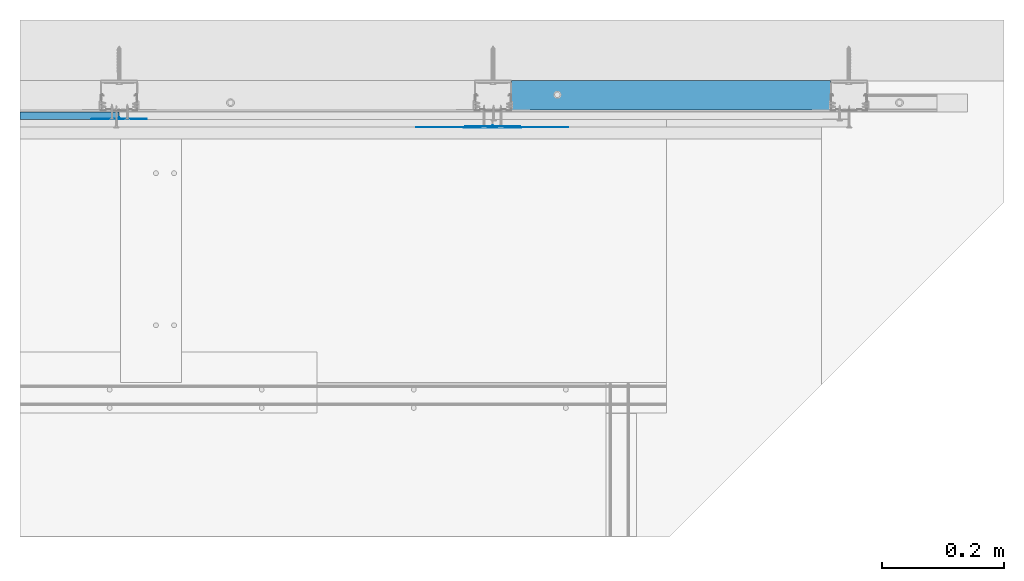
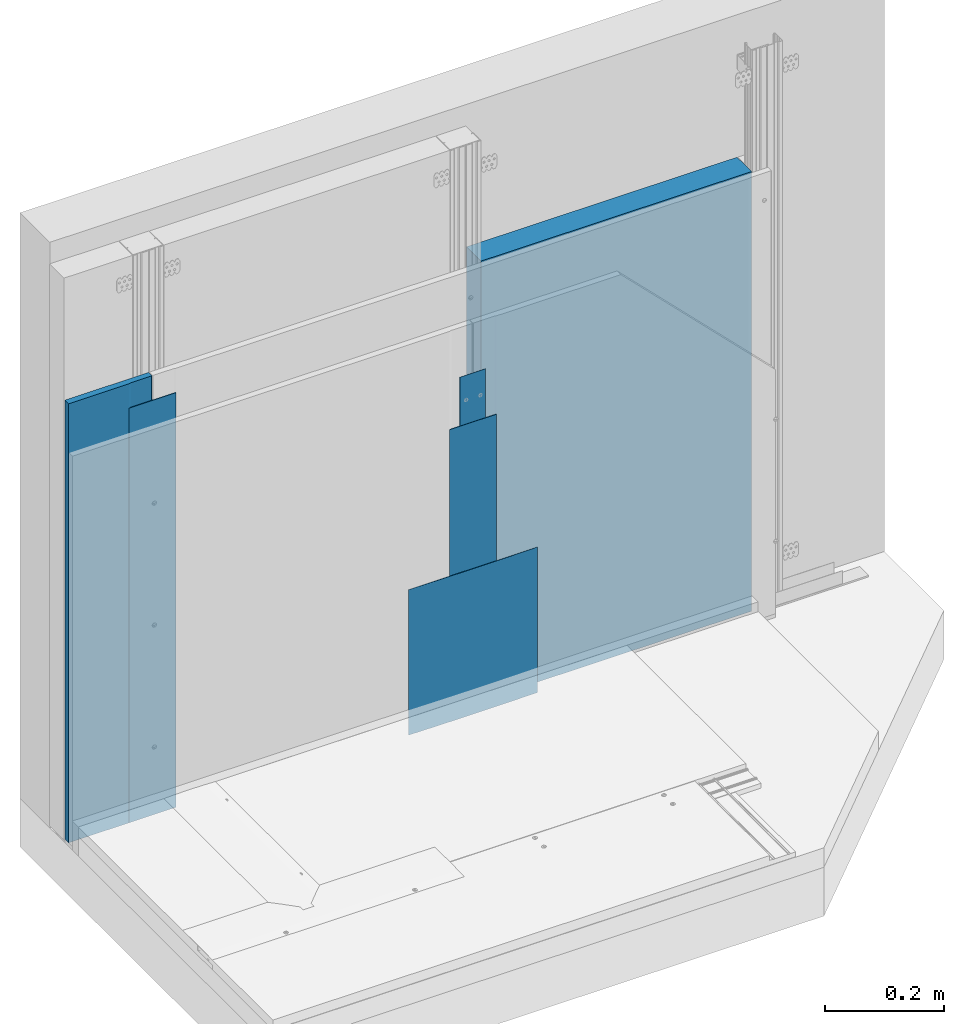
# One storey, part 17 of 47: 6 walls.
"""IFC2X3 building model written with IfcOpenShell, lengths in millimetres."""

from ifc_helpers import new_model, entity, si_unit, converted_unit, direction, frame, origin, origin_with_axes, place, context, project, spatial, faceted_brep, element, save


model = new_model("IFC2X3")

# Units and contexts
model_context = context("Model", 3, precision=1e-05, world=origin(), true_north=direction((0.0, 1.0, 0.0)))
ifc_project = project(units=[si_unit("LENGTHUNIT", "METRE", prefix="MILLI"), si_unit("AREAUNIT", "SQUARE_METRE"), si_unit("VOLUMEUNIT", "CUBIC_METRE"), converted_unit("PLANEANGLEUNIT", "DEGREE", entity("IfcPlaneAngleMeasure", 0.01745), si_unit("PLANEANGLEUNIT", "RADIAN"), dimensions=[0, 0, 0, 0, 0, 0, 0]), si_unit("SOLIDANGLEUNIT", "STERADIAN"), si_unit("MASSUNIT", "GRAM"), si_unit("TIMEUNIT", "SECOND"), si_unit("THERMODYNAMICTEMPERATUREUNIT", "DEGREE_CELSIUS"), si_unit("LUMINOUSINTENSITYUNIT", "LUMEN")], contexts=[model_context])

# Site, building, storey
site_placement = place(None, origin_with_axes())
site = spatial("IfcSite", under=ifc_project, at=site_placement, Name="Default Site", CompositionType="ELEMENT")
building_placement = place(site_placement, origin_with_axes())
building = spatial("IfcBuilding", under=site, at=building_placement, Name="Default Building", CompositionType="ELEMENT")
storey_placement = place(building_placement, origin_with_axes())
storey = spatial("IfcBuildingStorey", under=building, at=storey_placement, Name="Default Building Storey", CompositionType="ELEMENT", Elevation=0.0)

# Walls
wall_1_placement = place(storey_placement, frame((2165.047154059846, 5336.736799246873, 7.548421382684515), z_axis=(0.0, 0.0, 1.0), x_axis=(-1.0, 0.0, 0.0)))
element("IfcWall", 1, at=wall_1_placement, inside=storey, Name="Dedykowana masa szpachlowa Rigips - konstrukcyjna", context=model_context, shape_type="Brep", body=[
    faceted_brep([(-737.4838396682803, 3387.6695906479, 600.7999999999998), (-737.4592163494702, 3387.356721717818, 600.7999999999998), (-737.434593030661, 3387.6695906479, 600.7999999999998), (-737.3613293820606, 3387.974755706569, 600.7999999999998), (-737.2412293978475, 3388.264702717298, 600.7999999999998), (-737.07725033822, 3388.532292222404, 600.7999999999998), (-736.8734299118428, 3388.770935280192, 600.7999999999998), (-736.6347868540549, 3388.974755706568, 600.7999999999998), (-736.3671973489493, 3389.138734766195, 600.7999999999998), (-736.0772503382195, 3389.258834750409, 600.7999999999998), (-735.7720852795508, 3389.332098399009, 600.7999999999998), (-735.45921634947, 3389.356721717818, 600.7999999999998), (-692.4592163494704, 3389.356721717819, 600.7999999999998), (-691.4592163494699, 3390.556721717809, 600.7999999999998), (-782.4592163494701, 3390.556721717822, 600.7999999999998), (-782.4592163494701, 3389.356721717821, 600.7999999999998), (-739.4592163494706, 3389.356721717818, 600.7999999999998), (-739.1463474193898, 3389.332098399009, 600.7999999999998), (-738.8411823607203, 3389.258834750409, 600.7999999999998), (-738.5512353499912, 3389.138734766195, 600.7999999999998), (-738.2836458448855, 3388.974755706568, 600.7999999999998), (-738.0450027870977, 3388.770935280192, 600.7999999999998), (-737.8411823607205, 3388.532292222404, 600.7999999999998), (-737.6772033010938, 3388.264702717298, 600.7999999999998), (-737.55710331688, 3387.974755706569, 600.7999999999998), (-691.4592163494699, 3390.556721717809, 2.449996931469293), (-692.4592163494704, 3389.356721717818, 2.449996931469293), (-735.45921634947, 3389.356721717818, 2.449996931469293), (-735.7720852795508, 3389.332098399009, 2.449996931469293), (-736.0772503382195, 3389.258834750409, 2.449996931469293), (-736.3671973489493, 3389.138734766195, 2.449996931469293), (-736.6347868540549, 3388.974755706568, 2.449996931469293), (-736.8734299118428, 3388.770935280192, 2.449996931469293), (-737.07725033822, 3388.532292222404, 2.449996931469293), (-737.2412293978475, 3388.264702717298, 2.449996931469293), (-737.3613293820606, 3387.974755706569, 2.449996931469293), (-737.434593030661, 3387.6695906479, 2.449996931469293), (-737.4592163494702, 3387.356721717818, 2.449996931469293), (-737.4838396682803, 3387.6695906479, 2.449996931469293), (-737.55710331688, 3387.974755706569, 2.449996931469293), (-737.6772033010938, 3388.264702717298, 2.449996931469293), (-737.8411823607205, 3388.532292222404, 2.449996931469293), (-738.0450027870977, 3388.770935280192, 2.449996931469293), (-738.2836458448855, 3388.974755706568, 2.449996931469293), (-738.5512353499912, 3389.138734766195, 2.449996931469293), (-738.8411823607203, 3389.258834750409, 2.449996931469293), (-739.1463474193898, 3389.332098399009, 2.449996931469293), (-739.4592163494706, 3389.356721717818, 2.449996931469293), (-782.4592163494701, 3389.356721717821, 2.449996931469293), (-782.4592163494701, 3390.556721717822, 2.449996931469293)], [[[0, 1, 2, 3, 4, 5, 6, 7, 8, 9, 10, 11, 12, 13, 14, 15, 16, 17, 18, 19, 20, 21, 22, 23, 24]], [[25, 26, 27, 28, 29, 30, 31, 32, 33, 34, 35, 36, 37, 38, 39, 40, 41, 42, 43, 44, 45, 46, 47, 48, 49]], [[26, 12, 11, 27]], [[10, 9, 29, 28]], [[28, 27, 11, 10]], [[8, 30, 29, 9]], [[7, 6, 32, 31]], [[31, 30, 8, 7]], [[5, 4, 34, 33]], [[33, 32, 6, 5]], [[3, 35, 34, 4]], [[2, 1, 37, 36]], [[36, 35, 3, 2]], [[0, 24, 39, 38]], [[38, 37, 1, 0]], [[23, 40, 39, 24]], [[22, 21, 42, 41]], [[41, 40, 23, 22]], [[20, 19, 44, 43]], [[43, 42, 21, 20]], [[18, 45, 44, 19]], [[17, 16, 47, 46]], [[46, 45, 18, 17]], [[47, 16, 15, 48]], [[48, 15, 14, 49]], [[49, 14, 13, 25]], [[25, 13, 12, 26]]]),
])
wall_2_placement = place(storey_placement, frame((3638.965586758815, 5336.736799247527, 7.548421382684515), z_axis=(0.0, 0.0, 1.0), x_axis=(1.0, 0.0, 0.0)))
element("IfcWall", 2, at=wall_2_placement, inside=storey, Name="Taśma spoinowa RIGIPS", context=model_context, shape_type="Brep", body=[
    faceted_brep([(-712.4592163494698, -3389.356721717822, 700.7999999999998), (-712.4592163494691, -3389.856721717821, 700.7999999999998), (-762.4592163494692, -3389.856721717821, 700.7999999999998), (-762.45921634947, -3389.35672171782, 700.7999999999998), (-712.4592163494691, -3389.856721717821, 2.449996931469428), (-712.4592163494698, -3389.35672171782, 2.449996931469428), (-762.45921634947, -3389.35672171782, 2.449996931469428), (-762.4592163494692, -3389.856721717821, 2.449996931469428)], [[[0, 1, 2, 3]], [[4, 5, 6, 7]], [[5, 0, 3, 6]], [[6, 3, 2, 7]], [[7, 2, 1, 4]], [[4, 1, 0, 5]]]),
])
wall_3_placement = place(storey_placement, frame((3638.965586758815, 5336.736799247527, 7.548421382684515), z_axis=(0.0, 0.0, 1.0), x_axis=(1.0, 0.0, 0.0)))
element("IfcWall", 3, at=wall_3_placement, inside=storey, Name="Dedykowana masa szpachlowa Rigips - wykończeniowa", context=model_context, shape_type="Brep", body=[
    faceted_brep([(-612.459216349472, -3390.556721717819, 2.449996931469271), (-862.459216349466, -3390.556721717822, 2.449996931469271), (-812.4612643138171, -3391.196716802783, 2.449996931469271), (-762.4602403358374, -3391.516720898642, 2.449996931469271), (-712.458192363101, -3391.516720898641, 2.449996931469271), (-662.4571683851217, -3391.19671680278, 2.449996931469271), (-762.4602403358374, -3391.516720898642, 300.8000000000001), (-812.4612643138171, -3391.196716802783, 300.8000000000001), (-862.459216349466, -3390.556721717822, 300.8000000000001), (-612.459216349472, -3390.556721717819, 300.8000000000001), (-662.4571683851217, -3391.19671680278, 300.8000000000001), (-712.458192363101, -3391.516720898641, 300.8000000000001)], [[[0, 1, 2, 3, 4, 5]], [[6, 7, 8, 9, 10, 11]], [[9, 0, 5, 10]], [[10, 5, 4, 11]], [[11, 4, 3, 6]], [[6, 3, 2, 7]], [[1, 8, 7, 2]], [[0, 9, 8, 1]]]),
])
wall_4_placement = place(storey_placement, frame((2752.576545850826, 5350.424146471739, -1.543597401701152), z_axis=(0.0, 0.0, 1.0), x_axis=(-1.0, 4.718447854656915e-16, 0.0)))
element("IfcWall", 4, at=wall_4_placement, inside=storey, Name="Wypełnienie wełny mineralnej szklanej lub skalnej ISOVER", context=model_context, shape_type="Brep", body=[
    faceted_brep([(-180.4605405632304, 3327.645535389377, 10.28402578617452), (-180.4605405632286, 3376.283223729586, 10.28402578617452), (-180.4605405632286, 3376.283223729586, 911.5435974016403), (-180.4605405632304, 3327.645535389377, 911.5435974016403), (-705.460540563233, 3376.28322372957, 911.5435974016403), (-705.460540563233, 3376.28322372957, 10.28402578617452), (-705.4605405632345, 3327.645535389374, 911.5435974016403), (-705.4605405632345, 3327.645535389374, 10.28402578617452)], [[[0, 1, 2, 3]], [[4, 2, 1, 5]], [[6, 4, 5, 7]], [[5, 1, 0, 7]], [[6, 3, 2, 4]], [[7, 0, 3, 6]]]),
])
wall_5_placement = place(storey_placement, frame((1550.970432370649, 5349.236799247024, 259.1999999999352), z_axis=(0.0, 0.0, 1.0), x_axis=(-1.0, 0.0, 0.0)))
element("IfcWall", 5, at=wall_5_placement, inside=storey, Name="Dedykowana masa szpachlowa Rigips - konstrukcyjna", context=model_context, shape_type="Brep", body=[
    faceted_brep([(-737.4838396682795, 3387.669590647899, 600.7999999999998), (-737.4592163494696, 3387.356721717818, 600.7999999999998), (-737.4345930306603, 3387.669590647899, 600.7999999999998), (-737.3613293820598, 3387.974755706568, 600.7999999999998), (-737.2412293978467, 3388.264702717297, 600.7999999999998), (-737.0772503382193, 3388.532292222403, 600.7999999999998), (-736.8734299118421, 3388.770935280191, 600.7999999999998), (-736.6347868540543, 3388.974755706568, 600.7999999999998), (-736.3671973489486, 3389.138734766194, 600.7999999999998), (-736.0772503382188, 3389.258834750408, 600.7999999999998), (-735.7720852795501, 3389.332098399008, 600.7999999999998), (-735.4592163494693, 3389.356721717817, 600.7999999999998), (-692.4592163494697, 3389.356721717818, 600.7999999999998), (-691.4592163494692, 3390.556721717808, 600.7999999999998), (-782.4592163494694, 3390.556721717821, 600.7999999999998), (-782.4592163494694, 3389.356721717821, 600.7999999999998), (-739.4592163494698, 3389.356721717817, 600.7999999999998), (-739.146347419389, 3389.332098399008, 600.7999999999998), (-738.8411823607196, 3389.258834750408, 600.7999999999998), (-738.5512353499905, 3389.138734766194, 600.7999999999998), (-738.2836458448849, 3388.974755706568, 600.7999999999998), (-738.045002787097, 3388.770935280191, 600.7999999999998), (-737.8411823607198, 3388.532292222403, 600.7999999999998), (-737.6772033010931, 3388.264702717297, 600.7999999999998), (-737.5571033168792, 3387.974755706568, 600.7999999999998), (-691.4592163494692, 3390.556721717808, -249.2015816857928), (-692.4592163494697, 3389.356721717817, -249.2015816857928), (-735.4592163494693, 3389.356721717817, -249.2015816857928), (-735.7720852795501, 3389.332098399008, -249.2015816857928), (-736.0772503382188, 3389.258834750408, -249.2015816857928), (-736.3671973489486, 3389.138734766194, -249.2015816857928), (-736.6347868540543, 3388.974755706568, -249.2015816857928), (-736.8734299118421, 3388.77093528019, -249.2015816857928), (-737.0772503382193, 3388.532292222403, -249.2015816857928), (-737.2412293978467, 3388.264702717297, -249.2015816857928), (-737.3613293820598, 3387.974755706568, -249.2015816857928), (-737.4345930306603, 3387.669590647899, -249.2015816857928), (-737.4592163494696, 3387.356721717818, -249.2015816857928), (-737.4838396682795, 3387.669590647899, -249.2015816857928), (-737.5571033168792, 3387.974755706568, -249.2015816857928), (-737.6772033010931, 3388.264702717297, -249.2015816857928), (-737.8411823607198, 3388.532292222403, -249.2015816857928), (-738.045002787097, 3388.77093528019, -249.2015816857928), (-738.2836458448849, 3388.974755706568, -249.2015816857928), (-738.5512353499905, 3389.138734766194, -249.2015816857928), (-738.8411823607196, 3389.258834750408, -249.2015816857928), (-739.146347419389, 3389.332098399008, -249.2015816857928), (-739.4592163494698, 3389.356721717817, -249.2015816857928), (-782.4592163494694, 3389.356721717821, -249.2015816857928), (-782.4592163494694, 3390.556721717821, -249.2015816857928)], [[[0, 1, 2, 3, 4, 5, 6, 7, 8, 9, 10, 11, 12, 13, 14, 15, 16, 17, 18, 19, 20, 21, 22, 23, 24]], [[25, 26, 27, 28, 29, 30, 31, 32, 33, 34, 35, 36, 37, 38, 39, 40, 41, 42, 43, 44, 45, 46, 47, 48, 49]], [[26, 12, 11, 27]], [[10, 9, 29, 28]], [[28, 27, 11, 10]], [[8, 30, 29, 9]], [[7, 6, 32, 31]], [[31, 30, 8, 7]], [[5, 4, 34, 33]], [[33, 32, 6, 5]], [[3, 35, 34, 4]], [[2, 1, 37, 36]], [[36, 35, 3, 2]], [[0, 24, 39, 38]], [[38, 37, 1, 0]], [[23, 40, 39, 24]], [[22, 21, 42, 41]], [[41, 40, 23, 22]], [[20, 19, 44, 43]], [[43, 42, 21, 20]], [[18, 45, 44, 19]], [[17, 16, 47, 46]], [[46, 45, 18, 17]], [[47, 16, 15, 48]], [[48, 15, 14, 49]], [[49, 14, 13, 25]], [[25, 13, 12, 26]]]),
])
wall_6_placement = place(storey_placement, frame((2287.429648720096, 1971.180077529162, 1159.999999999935), z_axis=(0.0, 0.0, 1.0), x_axis=(-1.0, 0.0, 0.0)))
element("IfcWall", 6, at=wall_6_placement, inside=storey, Name="Płyta gipsowo-kartonowa RIGIPS PRO (4PRO™)", context=model_context, shape_type="Brep", body=[
    faceted_brep([(162.4045152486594, 12.4999999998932, -250.0000000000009), (162.4045152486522, -1.082867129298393e-10, -250.0000000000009), (162.4045152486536, -1.079257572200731e-10, -1150.001581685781), (162.4045152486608, 12.49999999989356, -1150.001581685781), (0.0, 0.0, -249.9999999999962), (44.99999999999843, 12.50000000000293, -249.9999999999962), (40.99999999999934, 11.50000000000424, -249.9999999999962), (0.9999999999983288, 11.5000000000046, -249.9999999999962), (0.7411809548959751, 11.46592582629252, -249.9999999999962), (0.4999999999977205, 11.3660254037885, -249.9999999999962), (0.2928932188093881, 11.20710678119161, -249.9999999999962), (0.1339745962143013, 11.00000000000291, -249.9999999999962), (0.03407417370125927, 10.7588190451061, -249.9999999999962), (-2.887645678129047e-12, 10.50000000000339, -249.9999999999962), (44.99999999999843, 12.50000000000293, -1150.001581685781), (40.99999999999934, 11.50000000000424, -1150.001581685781), (0.9999999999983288, 11.5000000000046, -1150.001581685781), (0.7411809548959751, 11.46592582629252, -1150.001581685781), (0.4999999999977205, 11.3660254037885, -1150.001581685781), (0.2928932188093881, 11.20710678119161, -1150.001581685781), (0.1339745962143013, 11.00000000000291, -1150.001581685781), (0.03407417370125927, 10.7588190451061, -1150.001581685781), (-2.887645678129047e-12, 10.50000000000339, -1150.001581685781), (0.0, 0.0, -1150.001581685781)], [[[0, 1, 2, 3]], [[4, 1, 0, 5, 6, 7, 8, 9, 10, 11, 12, 13]], [[0, 3, 14, 5]], [[6, 5, 14, 15]], [[7, 6, 15, 16]], [[8, 7, 16, 17]], [[9, 8, 17, 18]], [[10, 9, 18, 19]], [[11, 10, 19, 20]], [[12, 11, 20, 21]], [[13, 12, 21, 22]], [[4, 13, 22, 23]], [[23, 2, 1, 4]], [[14, 3, 2, 23, 22, 21, 20, 19, 18, 17, 16, 15]]]),
])

save(model, "model.ifc")
